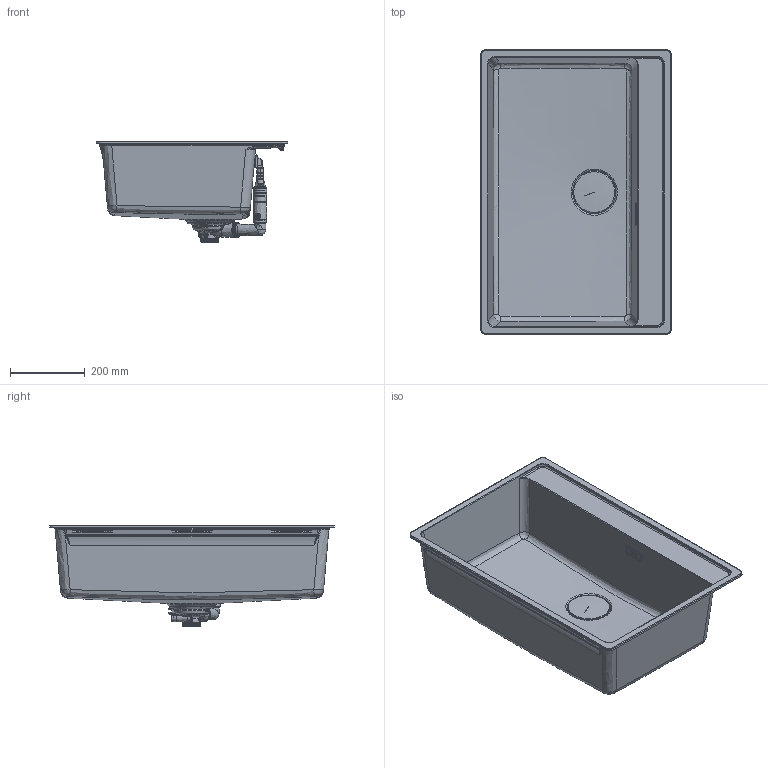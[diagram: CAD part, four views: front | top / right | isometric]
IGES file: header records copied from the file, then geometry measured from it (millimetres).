
Global section: file name: MRG 610-72 TL; native system: Autodesk Inventor 2021; preprocessor: unknown; date: 20210910.142145; units: millimetre
Bounding box: 510 x 760 x 271.19 mm (x, y, z)
Volume: 5753162.7 mm3; surface area: 1722748.7 mm2
Topology: 20 solids, 21 shells, 5149 faces, 13784 edges, 8870 vertices
Faces by surface type: bspline 5149
